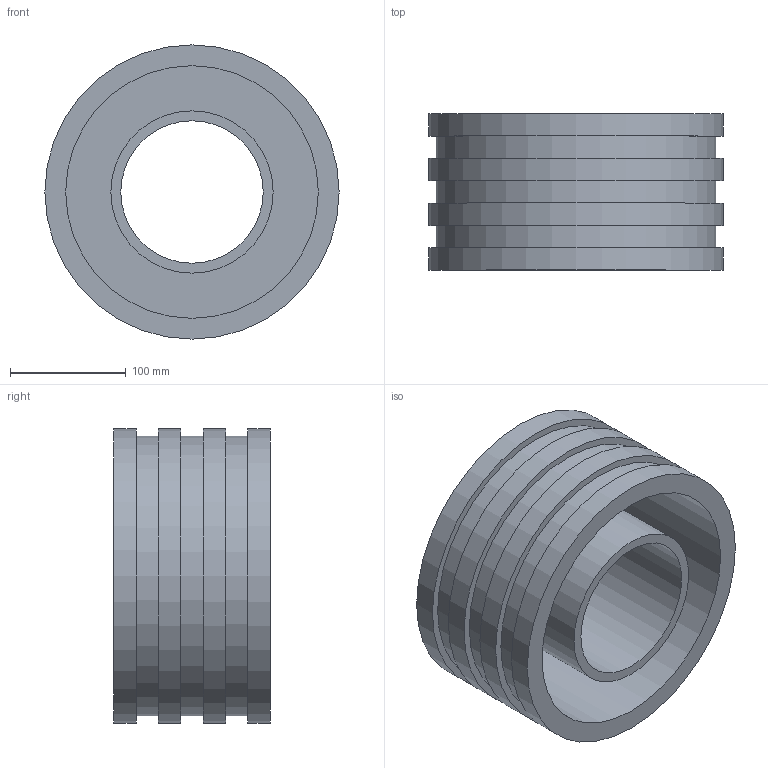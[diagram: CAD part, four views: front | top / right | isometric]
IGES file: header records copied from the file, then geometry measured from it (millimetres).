
Global section: file name: 37020140.ipt; native system: Autodesk Inventor 2015; preprocessor: unknown; author: Кирилл,,11,0; organization: 20170830.190241; date: 20171106.093313; units: millimetre
Bounding box: 254 x 135 x 254 mm (x, y, z)
Volume: 2201339.7 mm3; surface area: 405790.2 mm2
Topology: 1 solids, 1 shells, 20 faces, 34 edges, 24 vertices
Faces by surface type: plane 10, cylinder 8, revolution 2
Full cylindrical faces by diameter (mm): 140 x1, 241.3 x3, 254 x4
